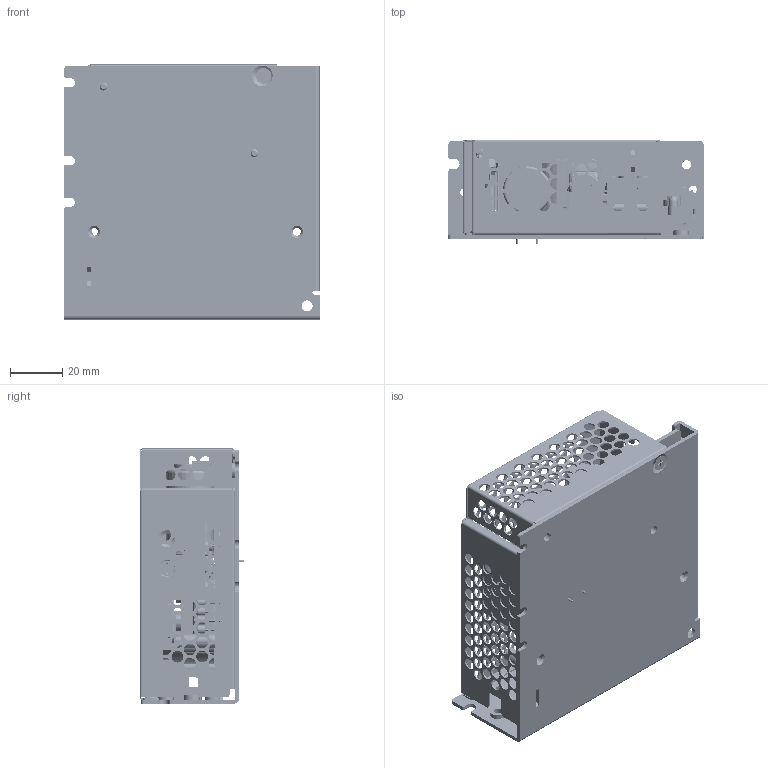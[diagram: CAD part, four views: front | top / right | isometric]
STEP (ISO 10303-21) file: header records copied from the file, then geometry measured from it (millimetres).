
FILE_DESCRIPTION((''),'2;1');
FILE_NAME('NEW_50W_ASM','2014-08-08T',('LEON.YEH'),(''),'PRO/ENGINEER BY PARAMETRIC TECHNOLOGY CORPORATION, 2010280','PRO/ENGINEER BY PARAMETRIC TECHNOLOGY CORPORATION, 2010280','');
FILE_SCHEMA(('CONFIG_CONTROL_DESIGN'));
Products named in the file (36): 5V50W_PWB_AF1; CON2_BODY; CON3_BODY; LED_HOLDER; VR1_; LEG1_; VR_LEG__ASM; 3103000500_FLAT_L5_1; HSK; HSK_PIN1; HSK_PIN2; HSK_ASM_ASM; 242017601306_Q1; 3105325100-L6; 3105320100-L8; 3110150400__W___ANY; CY1; DIODE_RESET__W___ANY; 200111620071_BD1; 2875187900_FL1; 0910800216_NTC1; 145401210505_C1; CORE-PJ3019_1_AF0; CORE-PJ3019_1_AF1; 3173070000_1_AF0; 3132069600_11_AF0; ASSY-PJ3018_ASM_1_AF0_ASM; 11_AF0; ASSY-PJ3018_ASM_AF1_ASM; C7; F1; 331609650101_CHASSIS; STUD_6_32_L7_; 331609650101_CHASSIS_ASM; NEW_COVER; NEW_50W_ASM
Assembly tree (47 placements, depth 4):
  NEW_50W_ASM
    5V50W_PWB_AF1
    CON2_BODY
    CON3_BODY
    LED_HOLDER
    VR_LEG__ASM
      VR1_
      LEG1_  x3
    3103000500_FLAT_L5_1  x2
    HSK_ASM_ASM
      HSK
      HSK_PIN1
      HSK_PIN2
    242017601306_Q1  x2
    3105325100-L6  x2
    3105320100-L8  x2
    3110150400__W___ANY  x2
    CY1  x5
    DIODE_RESET__W___ANY
    200111620071_BD1
    2875187900_FL1
    0910800216_NTC1
    145401210505_C1
    ASSY-PJ3018_ASM_AF1_ASM
      ASSY-PJ3018_ASM_1_AF0_ASM
        CORE-PJ3019_1_AF0
        CORE-PJ3019_1_AF1
        3173070000_1_AF0
        3132069600_11_AF0
      11_AF0
    C7
    F1
    331609650101_CHASSIS_ASM
      331609650101_CHASSIS
      STUD_6_32_L7_  x2
    NEW_COVER
Bounding box: 98 x 40.15 x 98 mm (x, y, z)
Volume: 72555.2 mm3; surface area: 100182.8 mm2
Topology: 56 solids, 56 shells, 4145 faces, 10046 edges, 6011 vertices
Faces by surface type: cylinder 1988, plane 1178, torus 678, bspline 155, cone 80, sphere 46, revolution 20
Entity records: 125162 total; most frequent: CARTESIAN_POINT 35177, DIRECTION 19368, ORIENTED_EDGE 18154, EDGE_CURVE 9077, AXIS2_PLACEMENT_3D 7761, VERTEX_POINT 5458, EDGE_LOOP 4573, CIRCLE 4026
